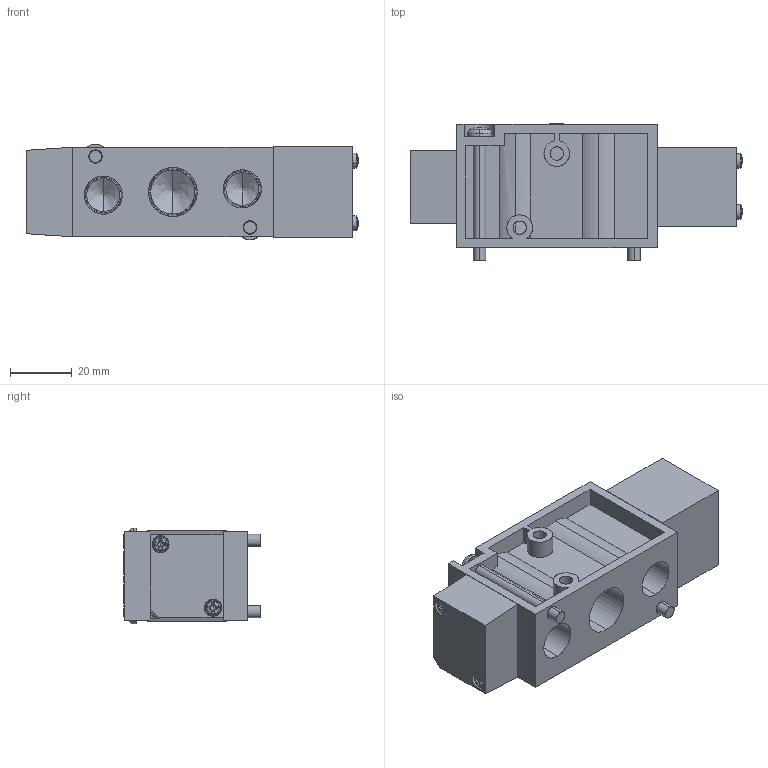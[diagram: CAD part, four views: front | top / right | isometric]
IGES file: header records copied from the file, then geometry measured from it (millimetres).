
Start section: SolidWorks IGES file using analytic representation for surfaces
Global section: file name: C:\Users\Toshiba\Desktop\YCS2408-03.IGS; native system: SolidWorks 2014; preprocessor: SolidWorks 2014; author: Toshiba; date: 160808.093853; units: millimetre
Bounding box: 107.44 x 44.12 x 31 mm (x, y, z)
Surface area: 27508.9 mm2 (no closed solid volume)
Topology: 0 solids, 0 shells, 416 faces, 4208 edges, 4178 vertices
Faces by surface type: bspline 270, revolution 146
